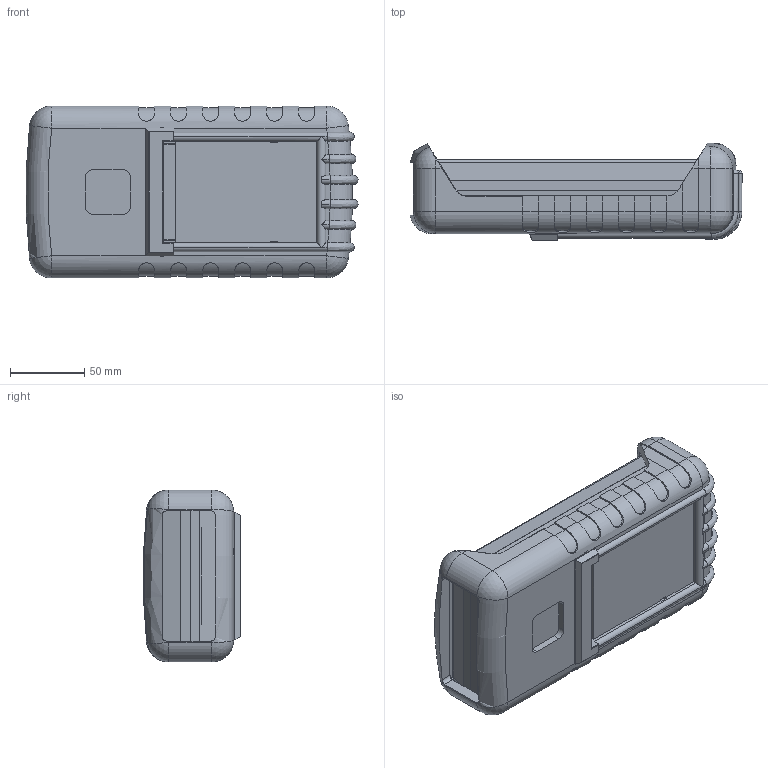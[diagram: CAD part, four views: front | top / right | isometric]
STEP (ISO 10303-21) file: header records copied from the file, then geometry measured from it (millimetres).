
FILE_DESCRIPTION (( 'STEP AP214' ), '1' );
FILE_NAME ('100-42-29V-E-R.STEP', '2020-11-20T14:49:31', ( 'Rudy' ), ( '' ), 'SwSTEP 2.0', 'SolidWorks 2016', '' );
FILE_SCHEMA (( 'AUTOMOTIVE_DESIGN' ));
Length unit declared in the file: inch
Products named in the file (7): 100-2-9V-4AA PCB; 29V door; 100-06 EXPANDER; 100-04-recessed Top; 100-02 BOT-29V; 100-42-29V-E-R; 100 RBE
Assembly tree (6 placements, depth 2):
  100-42-29V-E-R
    100-02 BOT-29V
    100-04-recessed Top
    100-06 EXPANDER
    29V door
    100-2-9V-4AA PCB
    100 RBE
Bounding box: 223.76 x 65.38 x 115.87 mm (x, y, z)
Volume: 399822.1 mm3; surface area: 272324.7 mm2
Topology: 6 solids, 6 shells, 1254 faces, 3367 edges, 2114 vertices
Faces by surface type: plane 649, cylinder 444, bspline 65, cone 46, torus 38, sphere 12
Entity records: 42548 total; most frequent: CARTESIAN_POINT 11793, ORIENTED_EDGE 6650, DIRECTION 5918, EDGE_CURVE 3325, LINE 2112, VECTOR 2112, VERTEX_POINT 2106, AXIS2_PLACEMENT_3D 1903
